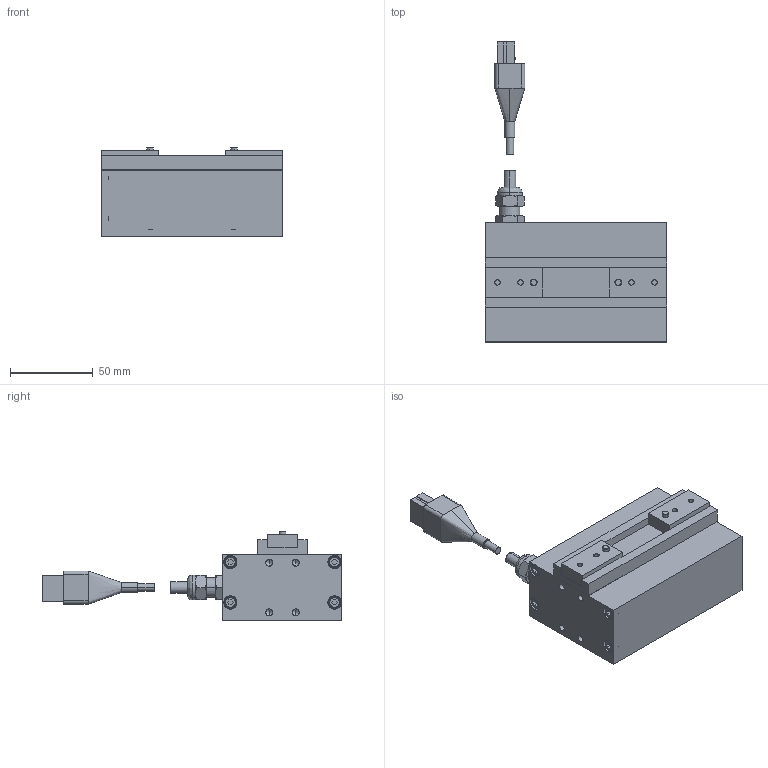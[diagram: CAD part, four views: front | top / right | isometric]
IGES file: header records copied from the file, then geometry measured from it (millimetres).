
Start section: SolidWorks IGES file using analytic representation for surfaces
Global section: file name: G:\SW2007図面\TAIYO\電動機器３Ｄ\電動グリッパ　２爪\ESG1-FT-2840-P.IGS; native system: SolidWorks 2007; preprocessor: SolidWorks 2007; author: 風音庵,,1; organization: 1; date: 090212.185804; units: millimetre
Bounding box: 110 x 181.39 x 54 mm (x, y, z)
Surface area: 50934.1 mm2 (no closed solid volume)
Topology: 0 solids, 0 shells, 441 faces, 4835 edges, 4811 vertices
Faces by surface type: bspline 265, revolution 176
